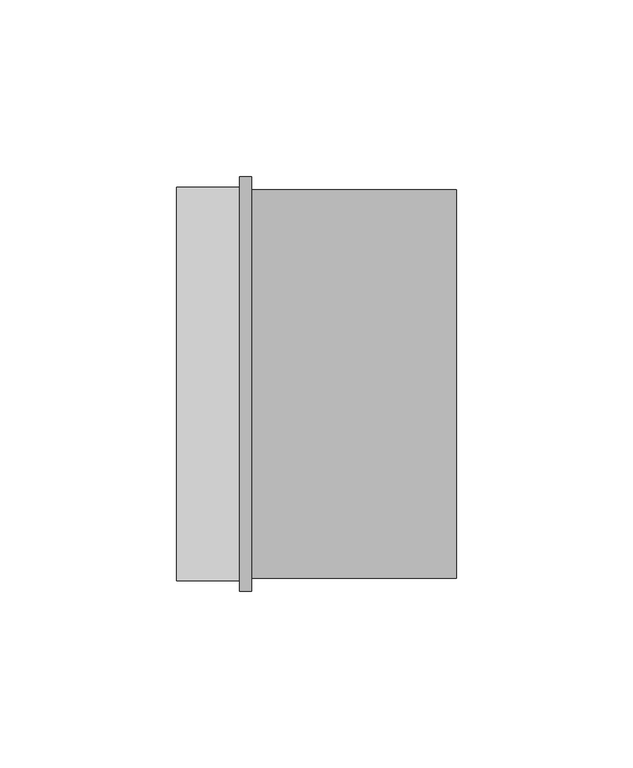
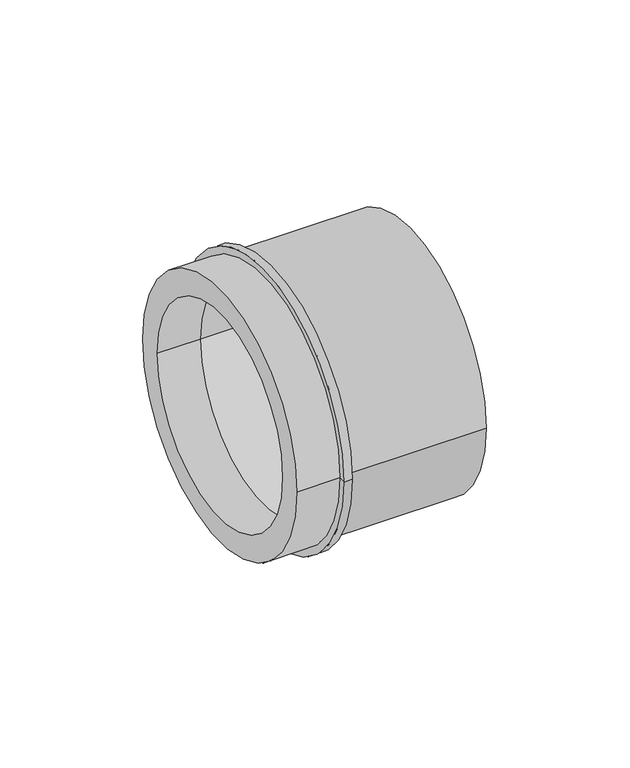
"""IFC4 building model written with IfcOpenShell, lengths in millimetres: pipe fitting geometry, UN_PIF_PP insert reducer_SH_PipeLife : Black, var. DN/OD (max. ø125, nested)."""

from ifc_helpers import new_model, si_unit, point, frame, origin, origin_2d, place, context, project, spatial, polyline, circle_curve, trimmed, segment, composite_curve, outline, extrude, source, transform, mapped, element, save
from ifc_brep_helpers import plane_surface, cylinder_surface, revolved_surface, advanced_brep


def pipe_fitting_dec34ee2(model_context):
    return source(origin(), model_context, "Body", "SolidModel", [
        extrude(outline(composite_curve([segment(trimmed(circle_curve(origin_2d(), 55.65), [point((-55.65, 0.0))], [point((55.65, 0.0))], False, "CARTESIAN"), True, "CONTINUOUS"), segment(trimmed(circle_curve(origin_2d(), 55.65), [point((55.65, 0.0))], [point((-55.65, 0.0))], False, "CARTESIAN"), True, "CONTINUOUS")], self_intersect=False), holes=[composite_curve([segment(trimmed(circle_curve(origin_2d(), 45.2), [point((-45.2, 0.0))], [point((45.2, 0.0))], True, "CARTESIAN"), True, "CONTINUOUS"), segment(trimmed(circle_curve(origin_2d(), 45.2), [point((45.2, 0.0))], [point((-45.2, 0.0))], True, "CARTESIAN"), True, "CONTINUOUS")], self_intersect=False)]), frame((-21.3, 0.0, 0.0), z_axis=(1.0, 0.0, 0.0), x_axis=(0.0, 1.0, 0.0)), (0.0, 0.0, 1.0), 17.9),
        advanced_brep(
        [(0.0, -58.7, 0.0), (0.0, 58.7, 0.0), (0.0, 55.0, 0.0), (0.0, -55.0, 0.0), (-3.4, -58.7, 0.0), (-3.4, 58.7, 0.0), (-3.4, -45.2, 0.0), (-3.4, 45.2, 0.0), (58.0, -55.0, 0.0), (58.0, 55.0, 0.0), (58.0, 0.0, 0.0), (27.4, -45.2, 0.0), (27.4, 45.2, 0.0)],
        [
            (0, 1, circle_curve(frame((0.0, 0.0, 0.0), z_axis=(1.0, 0.0, 0.0), x_axis=(0.0, 1.0, 0.0)), 58.7)),
            (1, 2),
            (2, 3, circle_curve(frame((0.0, 0.0, 0.0), z_axis=(-1.0, 0.0, 0.0), x_axis=(0.0, 1.0, 0.0)), 55.0)),
            (3, 0),
            (1, 0, circle_curve(frame((0.0, 0.0, 0.0), z_axis=(1.0, 0.0, 0.0), x_axis=(0.0, 1.0, 0.0)), 58.7)),
            (3, 2, circle_curve(frame((0.0, 0.0, 0.0), z_axis=(-1.0, 0.0, 0.0), x_axis=(0.0, 1.0, 0.0)), 55.0)),
            (0, 4),
            (4, 5, circle_curve(frame((-3.4, 0.0, 0.0), z_axis=(1.0, 0.0, 0.0), x_axis=(0.0, 1.0, 0.0)), 58.7)),
            (5, 1),
            (5, 4, circle_curve(frame((-3.4, 0.0, 0.0), z_axis=(1.0, 0.0, 0.0), x_axis=(0.0, 1.0, 0.0)), 58.7)),
            (4, 6),
            (6, 7, circle_curve(frame((-3.4, 0.0, 0.0), z_axis=(1.0, 0.0, 0.0), x_axis=(0.0, 1.0, 0.0)), 45.2)),
            (7, 5),
            (7, 6, circle_curve(frame((-3.4, 0.0, 0.0), z_axis=(1.0, 0.0, 0.0), x_axis=(0.0, 1.0, 0.0)), 45.2)),
            (8, 9, circle_curve(frame((58.0, 0.0, 0.0), z_axis=(1.0, 0.0, 0.0), x_axis=(0.0, 1.0, 0.0)), 55.0)),
            (9, 10),
            (10, 8),
            (9, 8, circle_curve(frame((58.0, 0.0, 0.0), z_axis=(1.0, 0.0, 0.0), x_axis=(0.0, 1.0, 0.0)), 55.0)),
            (2, 9),
            (8, 3),
            (11, 12, circle_curve(frame((27.4, 0.0, 0.0), z_axis=(-1.0, 0.0, 0.0), x_axis=(0.0, 1.0, 0.0)), 45.2)),
            (12, 11, circle_curve(frame((27.4, 0.0, 0.0), z_axis=(-1.0, 0.0, 0.0), x_axis=(0.0, 1.0, 0.0)), 45.2)),
            (12, 7),
            (6, 11),
        ],
        [
            plane_surface(frame((0.0, 0.0, 0.0), z_axis=(1.0, 0.0, 0.0), x_axis=(0.0, 1.0, 0.0))),
            cylinder_surface(frame((58.0, 0.0, 0.0), z_axis=(-1.0, 0.0, 0.0), x_axis=(0.0, 1.0, 0.0)), 58.7),
            plane_surface(frame((-3.4, 0.0, 0.0), z_axis=(-1.0, 0.0, 0.0), x_axis=(0.0, 1.0, 0.0))),
            plane_surface(frame((58.0, 0.0, 0.0), z_axis=(1.0, 0.0, 0.0), x_axis=(0.0, 1.0, 0.0))),
            cylinder_surface(frame((58.0, 0.0, 0.0), z_axis=(-1.0, 0.0, 0.0), x_axis=(0.0, 1.0, 0.0)), 55.0),
            plane_surface(frame((27.4, 45.2, 0.0), z_axis=(-1.0, 0.0, 0.0), x_axis=(0.0, 0.0, 1.0))),
            revolved_surface(polyline([(27.400000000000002, 45.2, 0.0), (-3.3999999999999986, 45.2, 0.0)]), (-21.3, 0.0, 0.0), (1.0, 0.0, 0.0)),
        ],
        [
            (0, [[1, 2, 3, 4]]),
            (0, [[-2, 5, -4, 6]]),
            (1, [[-1, 7, 8, 9]]),
            (1, [[-5, -9, 10, -7]]),
            (2, [[-8, 11, 12, 13]]),
            (2, [[-10, -13, 14, -11]]),
            (3, [[15, 16, 17]]),
            (3, [[-16, 18, -17]]),
            (4, [[-3, 19, -15, 20]]),
            (4, [[-6, -20, -18, -19]]),
            (5, [[21, 22]]),
            (6, [[-22, 23, -12, 24]]),
            (6, [[-21, -24, -14, -23]]),
        ],
    ),
    ])


if __name__ == "__main__":
    model = new_model("IFC4")
    model_context = context("Model", 3, world=origin())
    ifc_project = project(units=[si_unit("LENGTHUNIT", "METRE", prefix="MILLI")], contexts=[model_context])
    site = spatial("IfcSite", under=ifc_project)
    building = spatial("IfcBuilding", under=site)
    placement = place(None, origin())
    pipe_fitting_shape = pipe_fitting_dec34ee2(model_context)
    element("IfcPipeFitting", 1, ObjectType="UN_PIF_PP insert reducer_SH_PipeLife : Black, var. DN/OD (max. ø125, nested)", at=placement, inside=building, context=model_context, shape_type="MappedRepresentation", body=[
        mapped(pipe_fitting_shape, transform((0.0, 0.0, 0.0), x_axis=(1.0, 0.0, 0.0), y_axis=(0.0, 1.0, 0.0), z_axis=(0.0, 0.0, 1.0))),
    ])
    save(model, "model.ifc")
